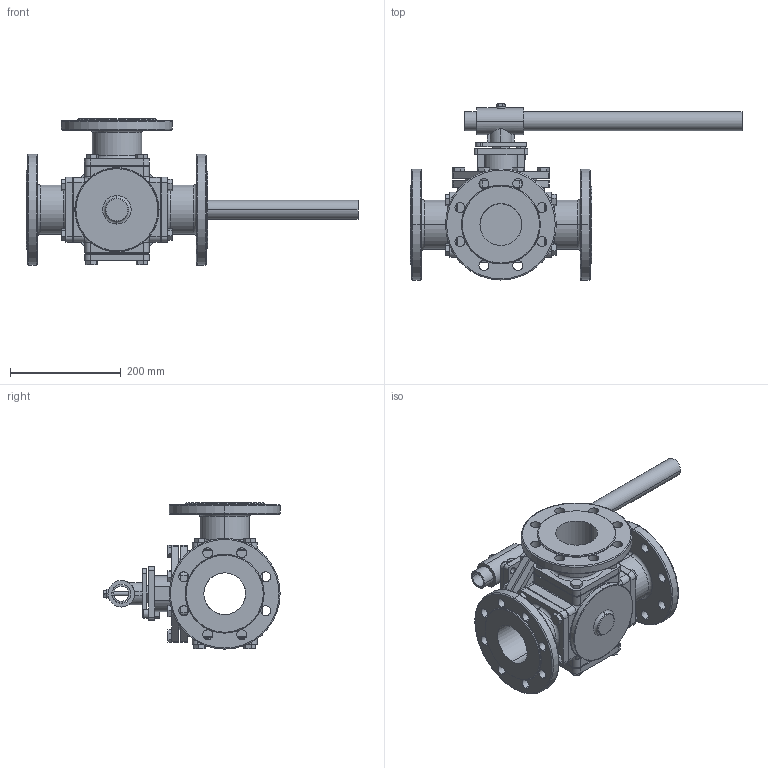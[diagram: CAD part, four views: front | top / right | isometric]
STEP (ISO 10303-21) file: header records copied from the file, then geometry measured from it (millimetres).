
FILE_DESCRIPTION (( 'STEP AP214' ), '1' );
FILE_NAME ('S316D DN80 HB.step', '2011-04-20T13:25:56', ( '' ), ( '' ), 'SwSTEP 2.0', 'SolidWorks 2011', '' );
FILE_SCHEMA (( 'AUTOMOTIVE_DESIGN' ));
Length unit declared in the file: millimetre
Products named in the file (9): S316D Handgreep Stang DN80; hex bolt gradec_din_ISO 4016 - M8 x 80 x 22-NN; S316D Handgreep T-stuk DN65-80-100; hex nut style 1 gradeab_din_Hexagon Nut ISO 4032 - M10 - D - N; socket head cap screw_din_DIN 912 M10 x 20 --- 20N; S316D Flange end DN80; S316D Blindflens DN80; S316D KK DN80 PN16; S316D DN80 HB
Assembly tree (10 placements, depth 2):
  S316D DN80 HB
    S316D Handgreep T-stuk DN65-80-100
    hex bolt gradec_din_ISO 4016 - M8 x 80 x 22-NN
    hex nut style 1 gradeab_din_Hexagon Nut ISO 4032 - M10 - D - N
    socket head cap screw_din_DIN 912 M10 x 20 --- 20N
    S316D Flange end DN80  x3
    S316D Blindflens DN80
    S316D KK DN80 PN16
    S316D Handgreep Stang DN80
Bounding box: 599 x 318.07 x 264 mm (x, y, z)
Volume: 5599853.2 mm3; surface area: 831153.2 mm2
Topology: 10 solids, 10 shells, 676 faces, 1716 edges, 1089 vertices
Faces by surface type: plane 351, cylinder 220, cone 54, torus 47, bspline 4
Entity records: 16694 total; most frequent: CARTESIAN_POINT 3827, DIRECTION 2642, ORIENTED_EDGE 2544, EDGE_CURVE 1272, AXIS2_PLACEMENT_3D 932, VERTEX_POINT 809, VECTOR 778, LINE 778
